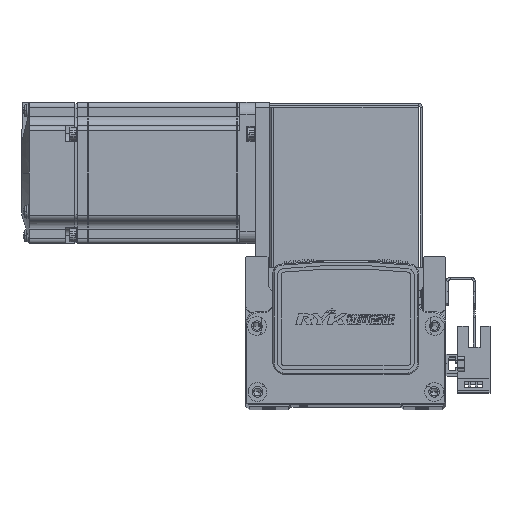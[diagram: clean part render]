
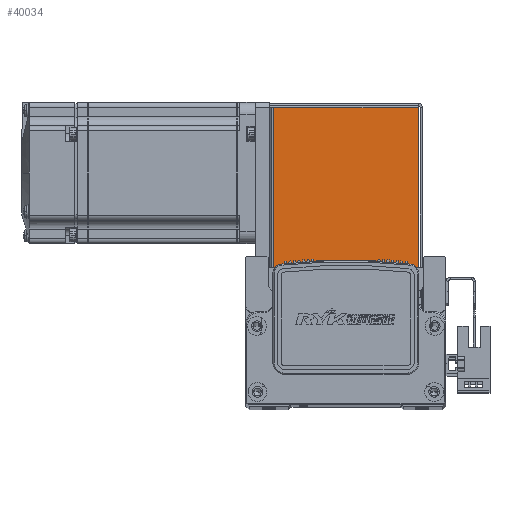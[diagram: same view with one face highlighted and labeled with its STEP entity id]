
A CAD part, top view. The second image highlights one B-rep face of the part: STEP entity #40034.
In plain terms, the highlighted planar face has unit normal (0, 0, 1).
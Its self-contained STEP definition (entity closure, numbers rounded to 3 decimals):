
#6717 = EDGE_LOOP ( 'NONE', ( #64211, #62509, #64228, #64217 ) ) ;
#7274 = CARTESIAN_POINT ( 'NONE',  ( 30.763, 0.737, 35. ) ) ;
#7301 = CARTESIAN_POINT ( 'NONE',  ( -30.793, 0.737, 35. ) ) ;
#7302 = CARTESIAN_POINT ( 'NONE',  ( -30.793, 68.5, 35. ) ) ;
#7368 = CARTESIAN_POINT ( 'NONE',  ( 30.763, 68.5, 35. ) ) ;
#15428 = VERTEX_POINT ( 'NONE', #7274 ) ;
#15431 = VERTEX_POINT ( 'NONE', #7301 ) ;
#15450 = VERTEX_POINT ( 'NONE', #7302 ) ;
#15499 = VERTEX_POINT ( 'NONE', #7368 ) ;
#27384 = CARTESIAN_POINT ( 'NONE',  ( -30.793, 0., 35. ) ) ;
#27405 = CARTESIAN_POINT ( 'NONE',  ( -32.5, 0.737, 35. ) ) ;
#27406 = DIRECTION ( 'NONE',  ( 0., 1., 0. ) ) ;
#27407 = DIRECTION ( 'NONE',  ( -1., 0., 0. ) ) ;
#27412 = DIRECTION ( 'NONE',  ( -1., 0., 0. ) ) ;
#27442 = CARTESIAN_POINT ( 'NONE',  ( 0., 68.5, 35. ) ) ;
#27445 = CARTESIAN_POINT ( 'NONE',  ( 30.763, 0.737, 35. ) ) ;
#27468 = DIRECTION ( 'NONE',  ( 0., 1., 0. ) ) ;
#28441 = VECTOR ( 'NONE', #27412, 1000. ) ;
#28467 = LINE ( 'NONE', #27442, #28441 ) ;
#28478 = LINE ( 'NONE', #27384, #28506 ) ;
#28506 = VECTOR ( 'NONE', #27406, 1000. ) ;
#28512 = LINE ( 'NONE', #27405, #28514 ) ;
#28514 = VECTOR ( 'NONE', #27407, 1000. ) ;
#28545 = LINE ( 'NONE', #27445, #28586 ) ;
#28586 = VECTOR ( 'NONE', #27468, 1000. ) ;
#28797 = AXIS2_PLACEMENT_3D ( 'NONE', #47229, #47261, #47233 ) ;
#33237 = EDGE_CURVE ( 'NONE', #15499, #15450, #28467, .T. ) ;
#33238 = EDGE_CURVE ( 'NONE', #15431, #15450, #28478, .T. ) ;
#33239 = EDGE_CURVE ( 'NONE', #15428, #15431, #28512, .T. ) ;
#33264 = EDGE_CURVE ( 'NONE', #15428, #15499, #28545, .T. ) ;
#38619 = FACE_OUTER_BOUND ( 'NONE', #6717, .T. ) ;
#40034 = ADVANCED_FACE ( 'NONE', ( #38619 ), #47245, .F. ) ;
#47229 = CARTESIAN_POINT ( 'NONE',  ( 0., 0., 35. ) ) ;
#47233 = DIRECTION ( 'NONE',  ( -1., 0., 0. ) ) ;
#47245 = PLANE ( 'NONE',  #28797 ) ;
#47261 = DIRECTION ( 'NONE',  ( 0., 0., -1. ) ) ;
#62509 = ORIENTED_EDGE ( 'NONE', *, *, #33237, .T. ) ;
#64211 = ORIENTED_EDGE ( 'NONE', *, *, #33264, .T. ) ;
#64217 = ORIENTED_EDGE ( 'NONE', *, *, #33239, .F. ) ;
#64228 = ORIENTED_EDGE ( 'NONE', *, *, #33238, .F. ) ;
